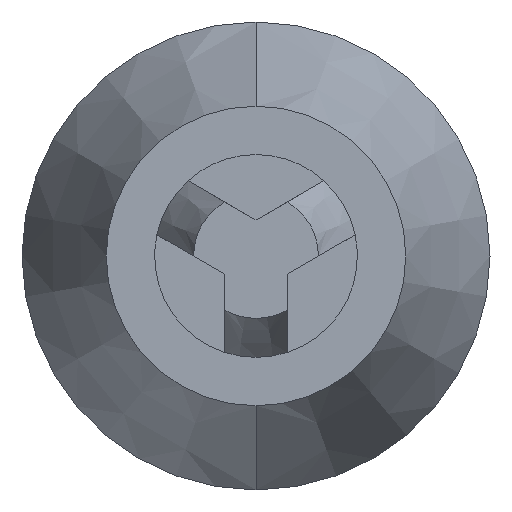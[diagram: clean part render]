
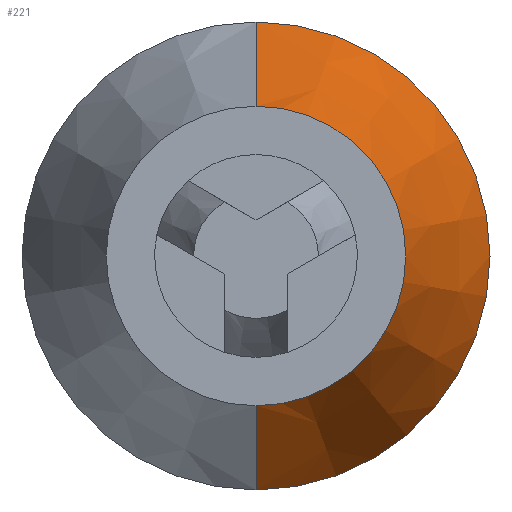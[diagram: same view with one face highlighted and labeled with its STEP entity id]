
A CAD part, front view. The second image highlights one B-rep face of the part: STEP entity #221.
In plain terms, the highlighted conical face has half-angle 20.298 degrees and reference radius 15 mm.
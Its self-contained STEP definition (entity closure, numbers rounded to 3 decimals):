
#200 = ORIENTED_EDGE ( 'NONE', *, *, #241, .F. ) ;
#202 = EDGE_CURVE ( 'NONE', #208, #252, #756, .T. ) ;
#207 = VERTEX_POINT ( 'NONE', #744 ) ;
#208 = VERTEX_POINT ( 'NONE', #799 ) ;
#209 = ORIENTED_EDGE ( 'NONE', *, *, #202, .T. ) ;
#213 = EDGE_LOOP ( 'NONE', ( #217, #209, #200, #272 ) ) ;
#217 = ORIENTED_EDGE ( 'NONE', *, *, #218, .T. ) ;
#218 = EDGE_CURVE ( 'NONE', #207, #208, #793, .T. ) ;
#221 = ADVANCED_FACE ( 'NONE', ( #783 ), #782, .T. ) ;
#241 = EDGE_CURVE ( 'NONE', #250, #252, #804, .T. ) ;
#250 = VERTEX_POINT ( 'NONE', #852 ) ;
#252 = VERTEX_POINT ( 'NONE', #846 ) ;
#267 = EDGE_CURVE ( 'NONE', #207, #250, #875, .T. ) ;
#272 = ORIENTED_EDGE ( 'NONE', *, *, #267, .F. ) ;
#744 = CARTESIAN_POINT ( 'NONE',  ( 0., -41.68, 9.6 ) ) ;
#753 = DIRECTION ( 'NONE',  ( 0., 0.938, -0.347 ) ) ;
#754 = VECTOR ( 'NONE', #753, 1000. ) ;
#755 = CARTESIAN_POINT ( 'NONE',  ( 0., -27.08, -15. ) ) ;
#756 = LINE ( 'NONE', #755, #754 ) ;
#778 = DIRECTION ( 'NONE',  ( 0., 0., 1. ) ) ;
#779 = DIRECTION ( 'NONE',  ( 0., 1., 0. ) ) ;
#780 = CARTESIAN_POINT ( 'NONE',  ( 0., -27.08, 0. ) ) ;
#781 = AXIS2_PLACEMENT_3D ( 'NONE', #780, #779, #778 ) ;
#782 = CONICAL_SURFACE ( 'NONE', #781, 15., 0.354 ) ;
#783 = FACE_OUTER_BOUND ( 'NONE', #213, .T. ) ;
#789 = DIRECTION ( 'NONE',  ( 0., 0., 1. ) ) ;
#790 = DIRECTION ( 'NONE',  ( 0., 1., 0. ) ) ;
#791 = CARTESIAN_POINT ( 'NONE',  ( 0., -41.68, 0. ) ) ;
#792 = AXIS2_PLACEMENT_3D ( 'NONE', #791, #790, #789 ) ;
#793 = CIRCLE ( 'NONE', #792, 9.6 ) ;
#799 = CARTESIAN_POINT ( 'NONE',  ( 0., -41.68, -9.6 ) ) ;
#802 = CARTESIAN_POINT ( 'NONE',  ( 0., -27.08, 0. ) ) ;
#803 = AXIS2_PLACEMENT_3D ( 'NONE', #802, #866, #865 ) ;
#804 = CIRCLE ( 'NONE', #803, 15. ) ;
#846 = CARTESIAN_POINT ( 'NONE',  ( 0., -27.08, -15. ) ) ;
#852 = CARTESIAN_POINT ( 'NONE',  ( 0., -27.08, 15. ) ) ;
#865 = DIRECTION ( 'NONE',  ( 0., 0., 1. ) ) ;
#866 = DIRECTION ( 'NONE',  ( 0., 1., 0. ) ) ;
#872 = DIRECTION ( 'NONE',  ( 0., 0.938, 0.347 ) ) ;
#873 = VECTOR ( 'NONE', #872, 1000. ) ;
#874 = CARTESIAN_POINT ( 'NONE',  ( 0., -27.08, 15. ) ) ;
#875 = LINE ( 'NONE', #874, #873 ) ;
